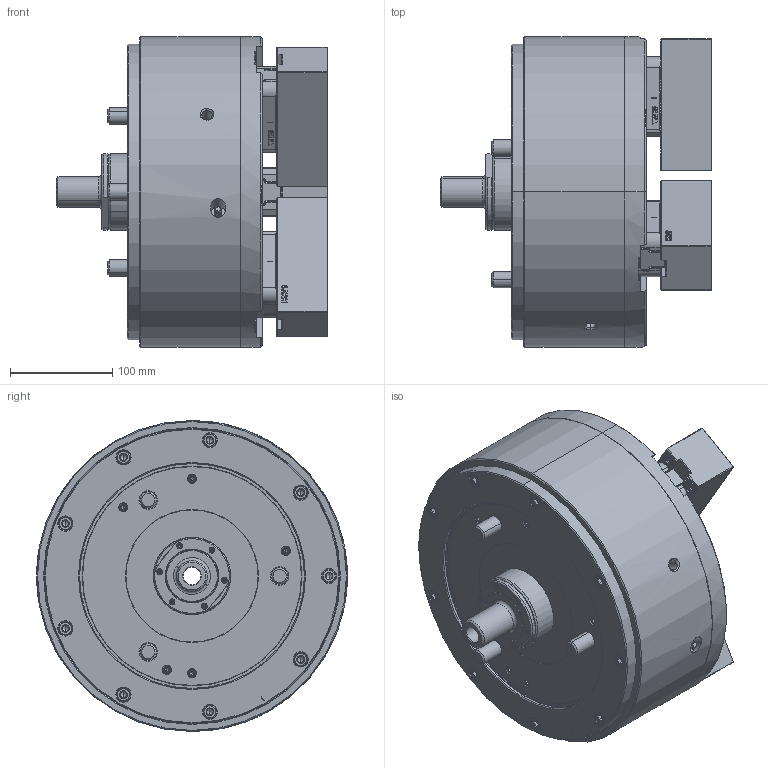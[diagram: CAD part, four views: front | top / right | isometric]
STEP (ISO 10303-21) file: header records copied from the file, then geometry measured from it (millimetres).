
FILE_DESCRIPTION (( 'STEP AP214' ), '1' );
FILE_NAME ('DL212_OC.STEP', '2022-09-08T04:46:24', ( '' ), ( '' ), 'SwSTEP 2.0', 'SolidWorks 2020', '' );
FILE_SCHEMA (( 'AUTOMOTIVE_DESIGN' ));
Length unit declared in the file: millimetre
Products named in the file (5): 61P851659; 結合DLD212_OC^DL212; DL212_OC; 0030114040; 61P458879
Assembly tree (13 placements, depth 2):
  DL212_OC
    61P851659  x3
    61P458879  x3
    0030114040  x6
    結合DLD212_OC^DL212
Bounding box: 265.3 x 304 x 304 mm (x, y, z)
Volume: 10130612.9 mm3; surface area: 601638.5 mm2
Topology: 13 solids, 60 shells, 6734 faces, 18524 edges, 12043 vertices
Faces by surface type: plane 4397, cylinder 888, cone 764, bspline 663, torus 22
Entity records: 186906 total; most frequent: CARTESIAN_POINT 61446, ORIENTED_EDGE 28184, DIRECTION 22430, EDGE_CURVE 14092, VECTOR 9762, LINE 9762, VERTEX_POINT 9232, AXIS2_PLACEMENT_3D 6334
